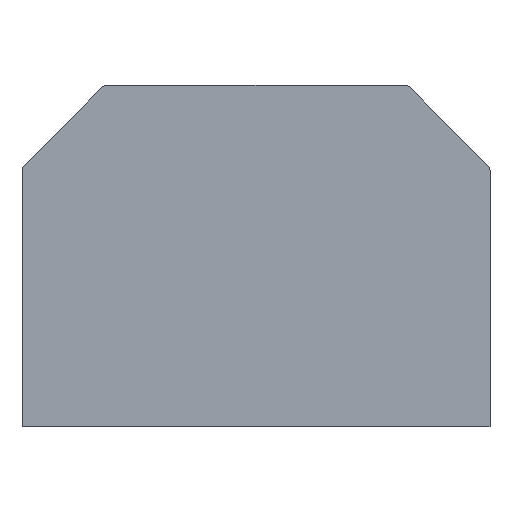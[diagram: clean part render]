
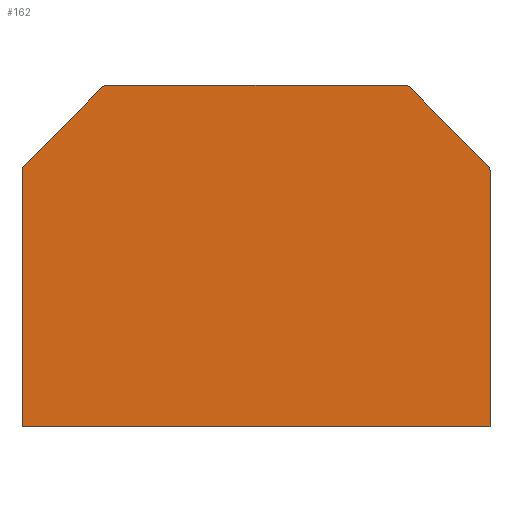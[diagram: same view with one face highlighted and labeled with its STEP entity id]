
A CAD part, front view. The second image highlights one B-rep face of the part: STEP entity #162.
In plain terms, the highlighted planar face has unit normal (0, -1, 0).
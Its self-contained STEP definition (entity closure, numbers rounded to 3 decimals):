
#69 = EDGE_CURVE( '     E16', #184, #181, #185, .T. );
#71 = EDGE_CURVE( '     E22', #187, #188, #189, .T. );
#80 = EDGE_CURVE( '      E3', #202, #203, #204, .T. );
#111 = EDGE_CURVE( '      E7', #199, #202, #247, .T. );
#113 = EDGE_CURVE( '     E28', #249, #240, #250, .T. );
#136 = EDGE_CURVE( '     E13', #181, #262, #277, .T. );
#138 = EDGE_CURVE( '     E10', #262, #199, #279, .T. );
#145 = EDGE_CURVE( '     E30', #249, #203, #287, .T. );
#147 = EDGE_CURVE( '     E25', #240, #187, #289, .T. );
#154 = EDGE_CURVE( '     E19', #188, #184, #297, .T. );
#162 = ADVANCED_FACE( '     F11', ( #306 ), #307, .T. );
#181 = VERTEX_POINT( '', #317 );
#184 = VERTEX_POINT( '', #322 );
#185 = LINE( '', #323, #324 );
#187 = VERTEX_POINT( '', #327 );
#188 = VERTEX_POINT( '', #328 );
#189 = LINE( '', #329, #330 );
#199 = VERTEX_POINT( '', #343 );
#202 = VERTEX_POINT( '', #348 );
#203 = VERTEX_POINT( '', #349 );
#204 = LINE( '', #350, #351 );
#240 = VERTEX_POINT( '', #402 );
#247 = CIRCLE( '', #414, 0.5 );
#249 = VERTEX_POINT( '', #417 );
#250 = LINE( '', #418, #419 );
#262 = VERTEX_POINT( '', #436 );
#277 = CIRCLE( '', #459, 0.5 );
#279 = LINE( '', #462, #463 );
#287 = LINE( '', #475, #476 );
#289 = CIRCLE( '', #479, 0.5 );
#297 = CIRCLE( '', #491, 0.5 );
#306 = FACE_OUTER_BOUND( '', #504, .T. );
#307 = PLANE( '', #505 );
#317 = CARTESIAN_POINT( '', ( 13.542, -1.5, 0. ) );
#322 = CARTESIAN_POINT( '', ( -13.542, -1.5, 0. ) );
#323 = CARTESIAN_POINT( '', ( 0., -1.5, 0. ) );
#324 = VECTOR( '', #508, 1000. );
#327 = CARTESIAN_POINT( '', ( -21.104, -1.5, -7.354 ) );
#328 = CARTESIAN_POINT( '', ( -13.896, -1.5, -0.146 ) );
#329 = CARTESIAN_POINT( '', ( -17.5, -1.5, -3.75 ) );
#330 = VECTOR( '', #509, 1000. );
#343 = CARTESIAN_POINT( '', ( 21.104, -1.5, -7.354 ) );
#348 = CARTESIAN_POINT( '', ( 21.25, -1.5, -7.708 ) );
#349 = CARTESIAN_POINT( '', ( 21.25, -1.5, -31. ) );
#350 = CARTESIAN_POINT( '', ( 21.25, -1.5, -19.354 ) );
#351 = VECTOR( '', #522, 1000. );
#402 = CARTESIAN_POINT( '', ( -21.25, -1.5, -7.708 ) );
#414 = AXIS2_PLACEMENT_3D( '', #574, #575, #576 );
#417 = CARTESIAN_POINT( '', ( -21.25, -1.5, -31. ) );
#418 = CARTESIAN_POINT( '', ( -21.25, -1.5, -19.354 ) );
#419 = VECTOR( '', #577, 1000. );
#436 = CARTESIAN_POINT( '', ( 13.896, -1.5, -0.146 ) );
#459 = AXIS2_PLACEMENT_3D( '', #609, #610, #611 );
#462 = CARTESIAN_POINT( '', ( 17.5, -1.5, -3.75 ) );
#463 = VECTOR( '', #612, 1000. );
#475 = CARTESIAN_POINT( '', ( 0., -1.5, -31. ) );
#476 = VECTOR( '', #622, 1000. );
#479 = AXIS2_PLACEMENT_3D( '', #623, #624, #625 );
#491 = AXIS2_PLACEMENT_3D( '', #635, #636, #637 );
#504 = EDGE_LOOP( '', ( #648, #649, #650, #651, #652, #653, #654, #655, #656, #657 ) );
#505 = AXIS2_PLACEMENT_3D( '', #658, #659, #660 );
#508 = DIRECTION( '', ( 1., 0., 0. ) );
#509 = DIRECTION( '', ( 0.707, 0., 0.707 ) );
#522 = DIRECTION( '', ( 0., 0., -1. ) );
#574 = CARTESIAN_POINT( '', ( 20.75, -1.5, -7.708 ) );
#575 = DIRECTION( '', ( 0., 1., 0. ) );
#576 = DIRECTION( '', ( -1., 0., 0. ) );
#577 = DIRECTION( '', ( 0., 0., 1. ) );
#609 = CARTESIAN_POINT( '', ( 13.542, -1.5, -0.5 ) );
#610 = DIRECTION( '', ( 0., 1., 0. ) );
#611 = DIRECTION( '', ( 0., 0., 1. ) );
#612 = DIRECTION( '', ( 0.707, 0., -0.707 ) );
#622 = DIRECTION( '', ( 1., 0., 0. ) );
#623 = CARTESIAN_POINT( '', ( -20.75, -1.5, -7.708 ) );
#624 = DIRECTION( '', ( 0., 1., 0. ) );
#625 = DIRECTION( '', ( -1., 0., 0. ) );
#635 = CARTESIAN_POINT( '', ( -13.542, -1.5, -0.5 ) );
#636 = DIRECTION( '', ( 0., 1., 0. ) );
#637 = DIRECTION( '', ( 0., 0., 1. ) );
#648 = ORIENTED_EDGE( '', *, *, #111, .F. );
#649 = ORIENTED_EDGE( '', *, *, #138, .F. );
#650 = ORIENTED_EDGE( '', *, *, #136, .F. );
#651 = ORIENTED_EDGE( '', *, *, #69, .F. );
#652 = ORIENTED_EDGE( '', *, *, #154, .F. );
#653 = ORIENTED_EDGE( '', *, *, #71, .F. );
#654 = ORIENTED_EDGE( '', *, *, #147, .F. );
#655 = ORIENTED_EDGE( '', *, *, #113, .F. );
#656 = ORIENTED_EDGE( '', *, *, #145, .T. );
#657 = ORIENTED_EDGE( '', *, *, #80, .F. );
#658 = CARTESIAN_POINT( '', ( 22.312, -1.5, 0.775 ) );
#659 = DIRECTION( '', ( 0., -1., 0. ) );
#660 = DIRECTION( '', ( -1., 0., 0. ) );
